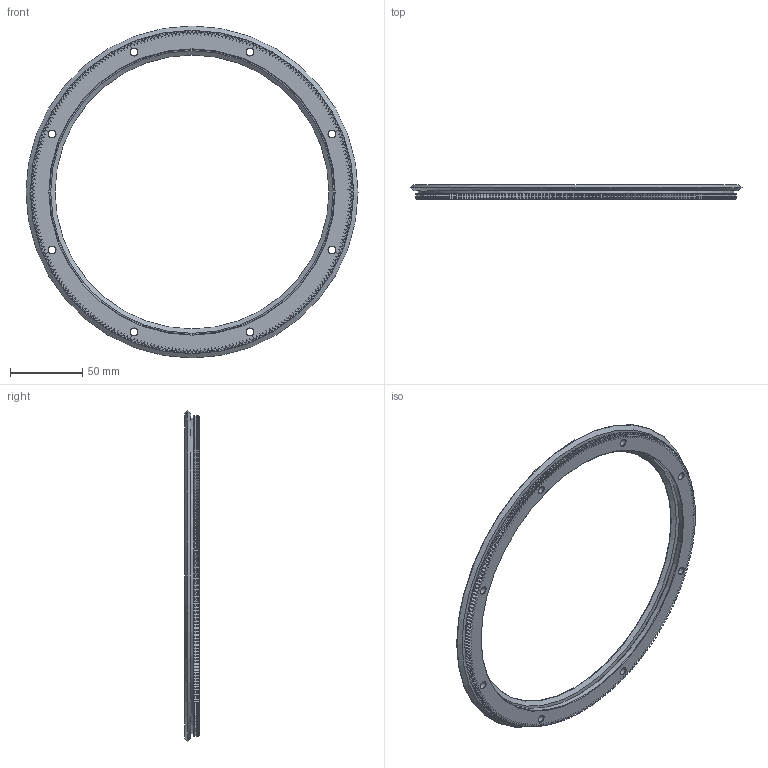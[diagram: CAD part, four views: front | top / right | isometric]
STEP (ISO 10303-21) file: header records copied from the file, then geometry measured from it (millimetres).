
FILE_DESCRIPTION( ( 'STEP AP203' ), '1' );
FILE_NAME( 'p:/temp/worker_34/temp/exporttempdir_4840_101_o9gYQ/format_0/R20 210 R360 P.stp', '2021-08-30T04:11:20', ( 'License CC BY-ND 4.0' ), ( 'CADENAS' ), ' ', 'PARTsolutions', ' ' );
FILE_SCHEMA( ( 'CONFIG_CONTROL_DESIGN' ) );
Length unit declared in the file: millimetre
Products named in the file (1): _R20 210 R360 P
Bounding box: 230.1 x 10 x 230.1 mm (x, y, z)
Volume: 85440.2 mm3; surface area: 44792.8 mm2
Topology: 1 solids, 1 shells, 1703 faces, 4505 edges, 2815 vertices
Faces by surface type: plane 1117, cylinder 295, cone 289, torus 2
Full cylindrical faces by diameter (mm): 5 x8, 8 x8, 197.6 x1, 202 x1, 218.4 x1
Entity records: 52710 total; most frequent: CARTESIAN_POINT 10645, ORIENTED_EDGE 8940, DIRECTION 8760, EDGE_CURVE 4470, AXIS2_PLACEMENT_3D 3138, VERTEX_POINT 2815, LINE 2484, VECTOR 2484
